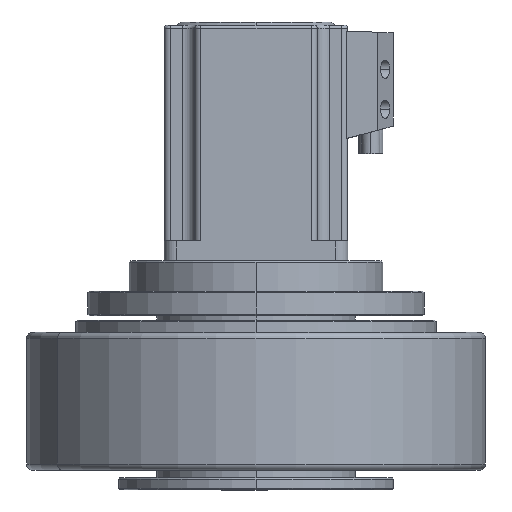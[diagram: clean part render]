
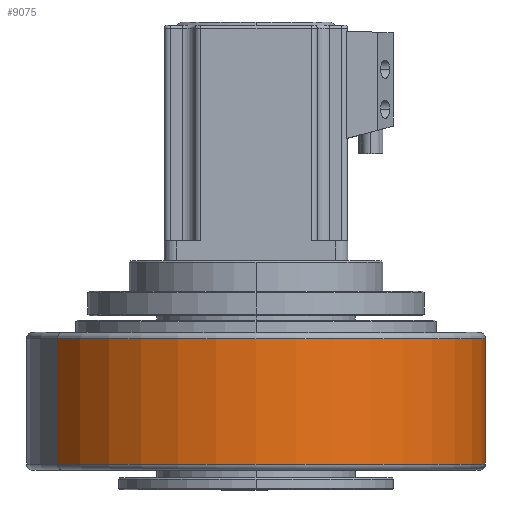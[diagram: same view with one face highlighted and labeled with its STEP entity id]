
A CAD part, front view. The second image highlights one B-rep face of the part: STEP entity #9075.
In plain terms, the highlighted cylindrical face has radius 75 mm (diameter 150 mm), a partial arc.
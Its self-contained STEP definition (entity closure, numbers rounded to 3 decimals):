
#5205=CARTESIAN_POINT('',(2.,0.,0.));
#5206=DIRECTION('',(-1.,0.,0.));
#5207=DIRECTION('',(0.,0.,1.));
#5208=AXIS2_PLACEMENT_3D('',#5205,#5206,#5207);
#5215=DIRECTION('',(1.,0.,0.));
#5216=VECTOR('',#5215,41.);
#5217=CARTESIAN_POINT('',(2.,0.,75.));
#5218=LINE('',#5217,#5216);
#5224=CARTESIAN_POINT('',(43.,0.,0.));
#5225=DIRECTION('',(1.,0.,0.));
#5226=DIRECTION('',(0.,0.,-1.));
#5227=AXIS2_PLACEMENT_3D('',#5224,#5225,#5226);
#5259=DIRECTION('',(1.,0.,0.));
#5260=VECTOR('',#5259,41.);
#5261=CARTESIAN_POINT('',(2.,0.,-75.));
#5262=LINE('',#5261,#5260);
#7995=CARTESIAN_POINT('',(2.,0.,-75.));
#7997=VERTEX_POINT('',#7995);
#8150=CARTESIAN_POINT('',(43.,0.,75.));
#8151=CARTESIAN_POINT('',(43.,0.,-75.));
#8152=VERTEX_POINT('',#8150);
#8153=VERTEX_POINT('',#8151);
#8344=CARTESIAN_POINT('',(2.,0.,75.));
#8345=VERTEX_POINT('',#8344);
#9061=CARTESIAN_POINT('',(0.,0.,0.));
#9062=DIRECTION('',(-1.,0.,0.));
#9063=DIRECTION('',(0.,0.,1.));
#9064=AXIS2_PLACEMENT_3D('',#9061,#9062,#9063);
#9065=CYLINDRICAL_SURFACE('',#9064,75.);
#9067=ORIENTED_EDGE('',*,*,#9066,.T.);
#9069=ORIENTED_EDGE('',*,*,#9068,.F.);
#9070=ORIENTED_EDGE('',*,*,#9051,.T.);
#9072=ORIENTED_EDGE('',*,*,#9071,.T.);
#9073=EDGE_LOOP('',(#9067,#9069,#9070,#9072));
#9074=FACE_OUTER_BOUND('',#9073,.F.);
#9075=ADVANCED_FACE('',(#9074),#9065,.T.);
#5209=CIRCLE('',#5208,75.);
#5228=CIRCLE('',#5227,75.);
#9051=EDGE_CURVE('',#8345,#7997,#5209,.T.);
#9066=EDGE_CURVE('',#8153,#8152,#5228,.T.);
#9068=EDGE_CURVE('',#8345,#8152,#5218,.T.);
#9071=EDGE_CURVE('',#7997,#8153,#5262,.T.);
